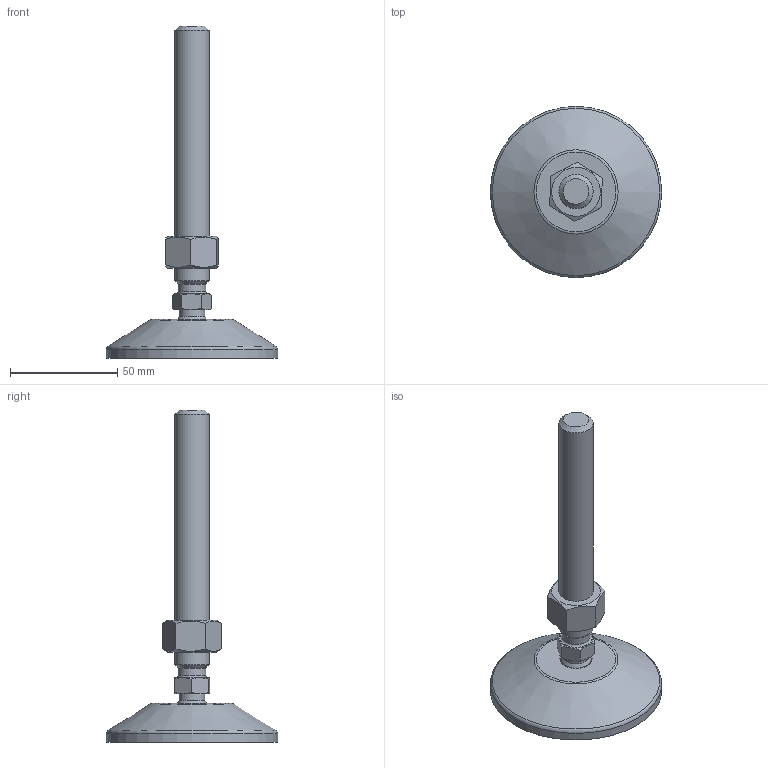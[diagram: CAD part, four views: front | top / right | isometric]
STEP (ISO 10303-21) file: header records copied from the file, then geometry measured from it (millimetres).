
FILE_DESCRIPTION(('STEP AP203'), '1');
FILE_NAME('栖闉罻', '', ('UNSPECIFIED'), ('UNSPECIFIED'), 'C3D Converter', 'C3D Toolkit', '');
FILE_SCHEMA(('CONFIG_CONTROL_DESIGN'));
Length unit declared in the file: millimetre
Products named in the file (4): A00020.116125; A00015.1080
Assembly tree (3 placements, depth 3):
  (unnamed)
    A00020.116125
      (unnamed)
    A00015.1080
Bounding box: 80 x 80 x 155.02 mm (x, y, z)
Volume: 69042.8 mm3; surface area: 26603.4 mm2
Topology: 3 solids, 3 shells, 189 faces, 478 edges, 316 vertices
Faces by surface type: plane 95, cylinder 58, cone 20, torus 14, sphere 2
Full cylindrical faces by diameter (mm): 4 x8, 12 x1, 13 x1, 13.835 x1, 14.3 x1, 15 x2, 15.5 x1, 16 x1, 69.3 x1, 80 x1
Entity records: 9576 total; most frequent: CARTESIAN_POINT 3398, DIRECTION 944, ORIENTED_EDGE 884, EDGE_CURVE 442, AXIS2_PLACEMENT_3D 378, VERTEX_POINT 315, EDGE_LOOP 247, FACE_BOUND 207
